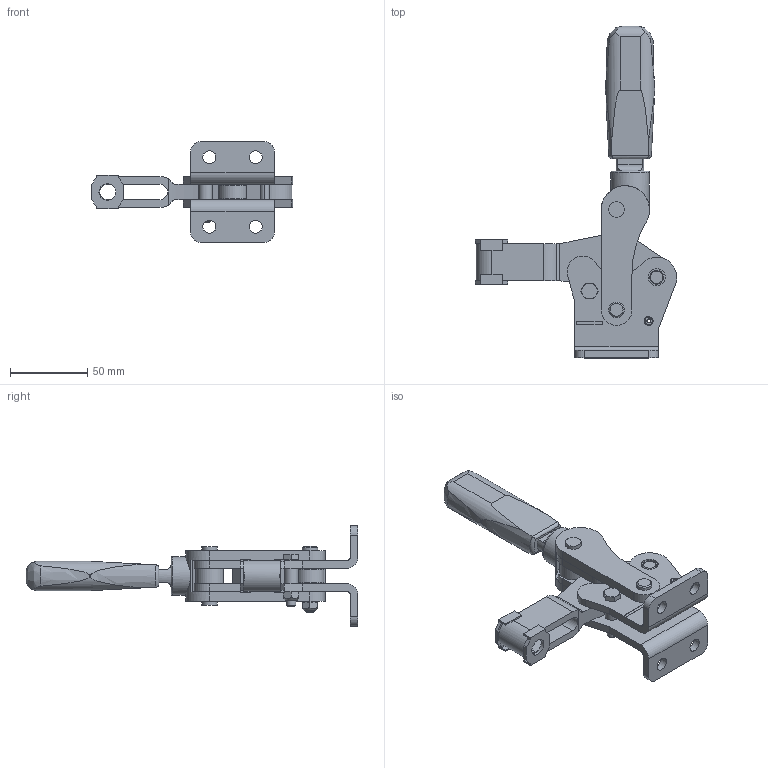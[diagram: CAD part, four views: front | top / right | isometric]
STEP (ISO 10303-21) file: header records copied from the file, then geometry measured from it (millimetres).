
FILE_DESCRIPTION( ( 'STEP AP203' ), '1' );
FILE_NAME( 'C:/Temp/Ganter_Step_05_03_2020/data/2_4/gn910/gn910_a/Toggle clamp GN 910-440-A (closed).stp', '2020-03-13T05:50:18', ( 'License CC BY-ND 4.0' ), ( 'CADENAS' ), ' ', 'PARTsolutions', ' ' );
FILE_SCHEMA( ( 'CONFIG_CONTROL_DESIGN' ) );
Length unit declared in the file: millimetre
Products named in the file (6): Toggle clamp GN 910-440-A (closed); _Toggle clamp GN 910-440-A-1; _Toggle clamp GN 910-440-A (0)-4; _Toggle clamp GN 910-440-A-2; _Toggle clamp GN 910-440-A (0)-3; _Toggle clamp GN 910-440-A (0)-5
Assembly tree (6 placements, depth 2):
  Toggle clamp GN 910-440-A (closed)
    _Toggle clamp GN 910-440-A-1
    _Toggle clamp GN 910-440-A (0)-4
    _Toggle clamp GN 910-440-A-2
    _Toggle clamp GN 910-440-A (0)-3
    _Toggle clamp GN 910-440-A (0)-5  x2
Bounding box: 130.49 x 215 x 65 mm (x, y, z)
Volume: 176125.1 mm3; surface area: 66312.5 mm2
Topology: 6 solids, 6 shells, 272 faces, 675 edges, 441 vertices
Faces by surface type: plane 144, cylinder 88, cone 35, torus 3, bspline 2
Full cylindrical faces by diameter (mm): 6 x2, 8.5 x4, 8.88 x2, 9 x3, 10 x10, 11 x7, 18 x2, 25 x1
Entity records: 8232 total; most frequent: CARTESIAN_POINT 2202, DIRECTION 1195, ORIENTED_EDGE 1144, EDGE_CURVE 572, AXIS2_PLACEMENT_3D 452, VERTEX_POINT 395, EDGE_LOOP 353, LINE 291
